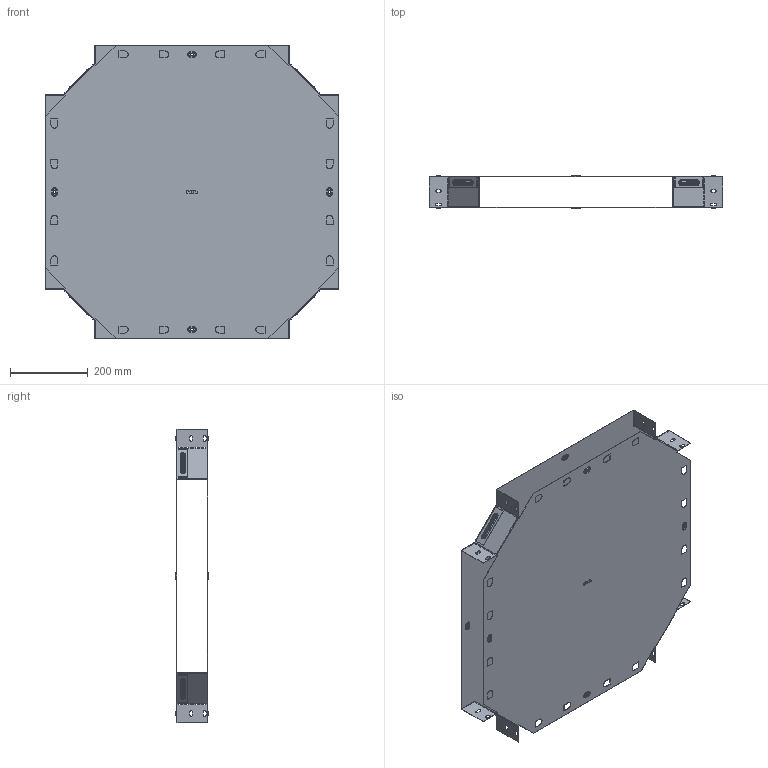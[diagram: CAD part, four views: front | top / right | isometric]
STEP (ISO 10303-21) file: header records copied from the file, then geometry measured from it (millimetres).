
FILE_DESCRIPTION (( 'STEP AP214' ), '1' );
FILE_NAME ('x8050008_捘.STEP', '2019-06-10T07:51:30', ( '砐錪賧瘔蠈錪 Windows' ), ( '' ), 'SwSTEP 2.0', 'SolidWorks 2018', '' );
FILE_SCHEMA (( 'AUTOMOTIVE_DESIGN' ));
Length unit declared in the file: millimetre
Products named in the file (1): x8050008_捘
Bounding box: 755.01 x 83.8 x 755.01 mm (x, y, z)
Volume: 873649.8 mm3; surface area: 2192286.8 mm2
Topology: 2 solids, 2 shells, 1016 faces, 3000 edges, 1952 vertices
Faces by surface type: plane 534, cylinder 336, torus 128, bspline 18
Entity records: 35031 total; most frequent: CARTESIAN_POINT 6927, ORIENTED_EDGE 6000, DIRECTION 5826, EDGE_CURVE 3000, VECTOR 2100, LINE 2100, VERTEX_POINT 1952, AXIS2_PLACEMENT_3D 1863
